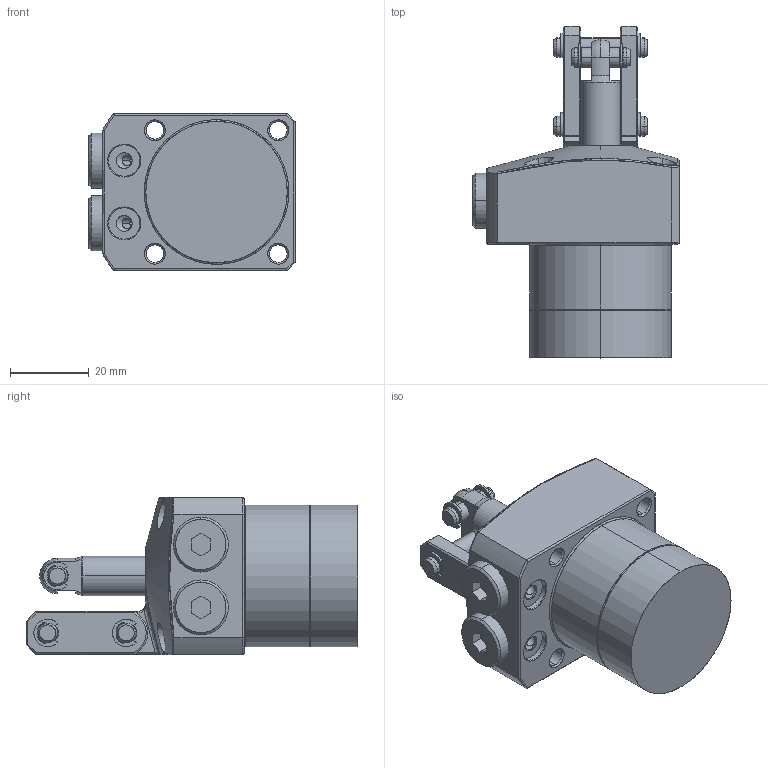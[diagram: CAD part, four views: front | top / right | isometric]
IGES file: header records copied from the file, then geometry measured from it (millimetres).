
Start section: SolidWorks IGES file using analytic representation for surfaces
Global section: file name: D:\abhilash\nijil\cylinder\LKA Series\con v lka\36\cl36\36CLPT\0402-0363.IGS; native system: SolidWorks 2010; preprocessor: SolidWorks 2010; author: nidheesh; date: 130730.103023; units: millimetre
Bounding box: 52.5 x 84.5 x 40 mm (x, y, z)
Surface area: 17867.7 mm2 (no closed solid volume)
Topology: 0 solids, 0 shells, 391 faces, 5040 edges, 5034 vertices
Faces by surface type: bspline 210, revolution 181
